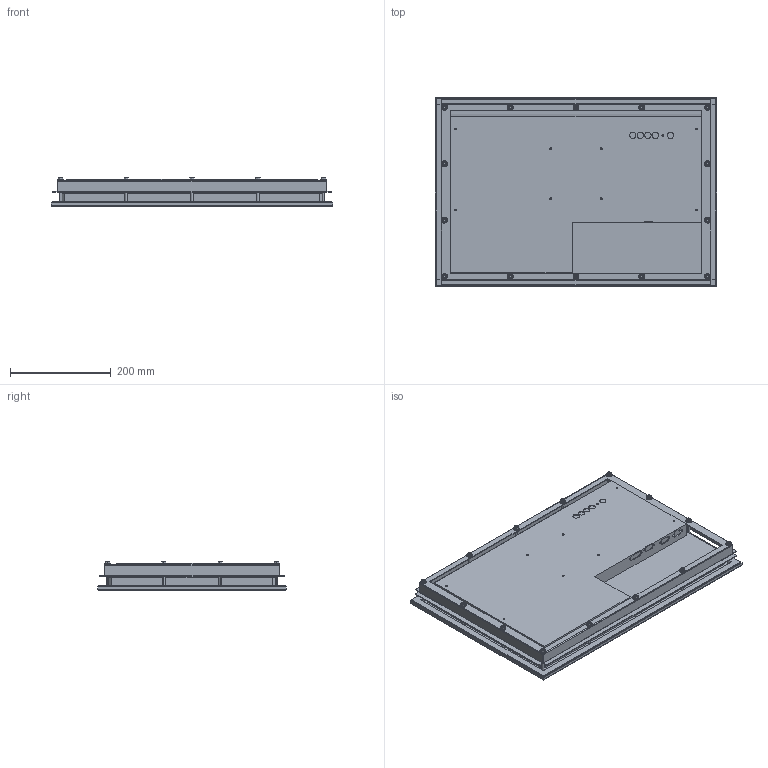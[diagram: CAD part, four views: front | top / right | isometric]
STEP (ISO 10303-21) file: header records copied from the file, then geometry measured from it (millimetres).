
FILE_DESCRIPTION (( 'STEP AP214' ), '1' );
FILE_NAME ('22 inch Panel Mount Monitor, HIS-ML22-xxxC.STEP', '2019-02-08T15:44:58', ( '' ), ( '' ), 'SwSTEP 2.0', 'SolidWorks 2017', '' );
FILE_SCHEMA (( 'AUTOMOTIVE_DESIGN' ));
Length unit declared in the file: millimetre
Products named in the file (4): M5 Nut, 30008_M5 Nut - 30008; Collar, 10767; Monitor, 22C; 22 inch Panel Mount Monitor, HIS-ML22-xxxC
Assembly tree (16 placements, depth 2):
  22 inch Panel Mount Monitor, HIS-ML22-xxxC
    Monitor, 22C
    Collar, 10767
    M5 Nut, 30008_M5 Nut - 30008  x14
Bounding box: 558.8 x 374.65 x 56.88 mm (x, y, z)
Volume: 8206968.7 mm3; surface area: 1303982.3 mm2
Topology: 18 solids, 18 shells, 782 faces, 1757 edges, 1042 vertices
Faces by surface type: plane 283, cylinder 195, cone 184, bspline 92, torus 28
Entity records: 11075 total; most frequent: CARTESIAN_POINT 2446, DIRECTION 1797, ORIENTED_EDGE 1662, EDGE_CURVE 831, AXIS2_PLACEMENT_3D 647, VERTEX_POINT 522, VECTOR 503, LINE 503
